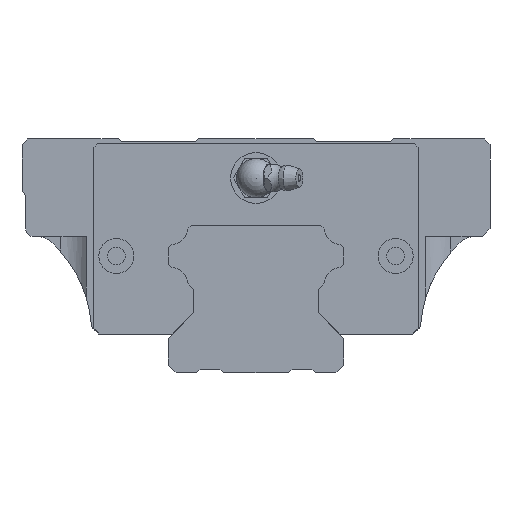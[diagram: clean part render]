
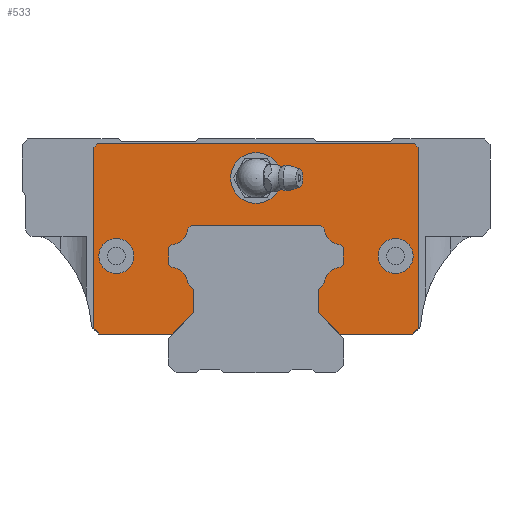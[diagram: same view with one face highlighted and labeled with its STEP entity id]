
A CAD part, front view. The second image highlights one B-rep face of the part: STEP entity #533.
In plain terms, the highlighted planar face has unit normal (0, -1, 0).
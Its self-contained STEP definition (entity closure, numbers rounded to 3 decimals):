
#201=FACE_BOUND('',#1050,.T.);
#202=FACE_BOUND('',#1051,.T.);
#203=FACE_BOUND('',#1052,.T.);
#341=CIRCLE('',#3637,4.35);
#343=CIRCLE('',#3643,4.35);
#345=CIRCLE('',#3649,4.35);
#347=CIRCLE('',#3655,4.35);
#355=CIRCLE('',#3702,6.5);
#356=CIRCLE('',#3703,4.5);
#357=CIRCLE('',#3704,4.5);
#533=ADVANCED_FACE('',(#201,#202,#203,#836),#674,.F.);
#674=PLANE('',#3705);
#836=FACE_OUTER_BOUND('',#1053,.T.);
#1050=EDGE_LOOP('',(#1899));
#1051=EDGE_LOOP('',(#1900));
#1052=EDGE_LOOP('',(#1901));
#1053=EDGE_LOOP('',(#1902,#1903,#1904,#1905,#1906,#1907,#1908,#1909,#1910,
#1911,#1912,#1913,#1914,#1915,#1916,#1917,#1918,#1919,#1920,#1921,#1922,
#1923,#1924,#1925,#1926,#1927,#1928,#1929));
#1899=ORIENTED_EDGE('',*,*,#2774,.F.);
#1900=ORIENTED_EDGE('',*,*,#2775,.F.);
#1901=ORIENTED_EDGE('',*,*,#2776,.F.);
#1902=ORIENTED_EDGE('',*,*,#2762,.F.);
#1903=ORIENTED_EDGE('',*,*,#2773,.T.);
#1904=ORIENTED_EDGE('',*,*,#2771,.T.);
#1905=ORIENTED_EDGE('',*,*,#2728,.T.);
#1906=ORIENTED_EDGE('',*,*,#2725,.F.);
#1907=ORIENTED_EDGE('',*,*,#2722,.F.);
#1908=ORIENTED_EDGE('',*,*,#2719,.T.);
#1909=ORIENTED_EDGE('',*,*,#2716,.T.);
#1910=ORIENTED_EDGE('',*,*,#2713,.T.);
#1911=ORIENTED_EDGE('',*,*,#2710,.F.);
#1912=ORIENTED_EDGE('',*,*,#2707,.F.);
#1913=ORIENTED_EDGE('',*,*,#2704,.T.);
#1914=ORIENTED_EDGE('',*,*,#2701,.F.);
#1915=ORIENTED_EDGE('',*,*,#2698,.T.);
#1916=ORIENTED_EDGE('',*,*,#2695,.T.);
#1917=ORIENTED_EDGE('',*,*,#2692,.T.);
#1918=ORIENTED_EDGE('',*,*,#2689,.T.);
#1919=ORIENTED_EDGE('',*,*,#2686,.T.);
#1920=ORIENTED_EDGE('',*,*,#2683,.F.);
#1921=ORIENTED_EDGE('',*,*,#2680,.T.);
#1922=ORIENTED_EDGE('',*,*,#2677,.F.);
#1923=ORIENTED_EDGE('',*,*,#2674,.T.);
#1924=ORIENTED_EDGE('',*,*,#2671,.T.);
#1925=ORIENTED_EDGE('',*,*,#2667,.F.);
#1926=ORIENTED_EDGE('',*,*,#2770,.T.);
#1927=ORIENTED_EDGE('',*,*,#2768,.F.);
#1928=ORIENTED_EDGE('',*,*,#2766,.F.);
#1929=ORIENTED_EDGE('',*,*,#2764,.F.);
#2260=VERTEX_POINT('',#5549);
#2261=VERTEX_POINT('',#5551);
#2264=VERTEX_POINT('',#5559);
#2266=VERTEX_POINT('',#5565);
#2268=VERTEX_POINT('',#5571);
#2270=VERTEX_POINT('',#5577);
#2272=VERTEX_POINT('',#5583);
#2274=VERTEX_POINT('',#5589);
#2276=VERTEX_POINT('',#5595);
#2278=VERTEX_POINT('',#5601);
#2280=VERTEX_POINT('',#5607);
#2282=VERTEX_POINT('',#5613);
#2284=VERTEX_POINT('',#5619);
#2286=VERTEX_POINT('',#5625);
#2288=VERTEX_POINT('',#5631);
#2290=VERTEX_POINT('',#5637);
#2292=VERTEX_POINT('',#5643);
#2294=VERTEX_POINT('',#5649);
#2296=VERTEX_POINT('',#5655);
#2298=VERTEX_POINT('',#5661);
#2300=VERTEX_POINT('',#5667);
#2302=VERTEX_POINT('',#5673);
#2313=VERTEX_POINT('',#5748);
#2314=VERTEX_POINT('',#5750);
#2315=VERTEX_POINT('',#5754);
#2316=VERTEX_POINT('',#5758);
#2317=VERTEX_POINT('',#5762);
#2318=VERTEX_POINT('',#5768);
#2319=VERTEX_POINT('',#5774);
#2320=VERTEX_POINT('',#5776);
#2321=VERTEX_POINT('',#5778);
#2667=EDGE_CURVE('',#2260,#2261,#3028,.T.);
#2671=EDGE_CURVE('',#2264,#2261,#3032,.T.);
#2674=EDGE_CURVE('',#2266,#2264,#3035,.T.);
#2677=EDGE_CURVE('',#2266,#2268,#3038,.T.);
#2680=EDGE_CURVE('',#2270,#2268,#341,.T.);
#2683=EDGE_CURVE('',#2270,#2272,#3042,.T.);
#2686=EDGE_CURVE('',#2274,#2272,#3045,.T.);
#2689=EDGE_CURVE('',#2276,#2274,#3048,.T.);
#2692=EDGE_CURVE('',#2278,#2276,#343,.T.);
#2695=EDGE_CURVE('',#2280,#2278,#3052,.T.);
#2698=EDGE_CURVE('',#2282,#2280,#3055,.T.);
#2701=EDGE_CURVE('',#2282,#2284,#3058,.T.);
#2704=EDGE_CURVE('',#2286,#2284,#345,.T.);
#2707=EDGE_CURVE('',#2286,#2288,#3062,.T.);
#2710=EDGE_CURVE('',#2288,#2290,#3065,.T.);
#2713=EDGE_CURVE('',#2292,#2290,#3068,.T.);
#2716=EDGE_CURVE('',#2294,#2292,#347,.T.);
#2719=EDGE_CURVE('',#2296,#2294,#3072,.T.);
#2722=EDGE_CURVE('',#2296,#2298,#3075,.T.);
#2725=EDGE_CURVE('',#2298,#2300,#3078,.T.);
#2728=EDGE_CURVE('',#2302,#2300,#3081,.T.);
#2762=EDGE_CURVE('',#2313,#2314,#3108,.T.);
#2764=EDGE_CURVE('',#2314,#2315,#3110,.T.);
#2766=EDGE_CURVE('',#2315,#2316,#3112,.T.);
#2768=EDGE_CURVE('',#2316,#2317,#3114,.T.);
#2770=EDGE_CURVE('',#2260,#2317,#3116,.T.);
#2771=EDGE_CURVE('',#2318,#2302,#3117,.T.);
#2773=EDGE_CURVE('',#2313,#2318,#3119,.T.);
#2774=EDGE_CURVE('',#2319,#2319,#355,.T.);
#2775=EDGE_CURVE('',#2320,#2320,#356,.T.);
#2776=EDGE_CURVE('',#2321,#2321,#357,.T.);
#3028=LINE('',#5550,#3354);
#3032=LINE('',#5558,#3358);
#3035=LINE('',#5564,#3361);
#3038=LINE('',#5570,#3364);
#3042=LINE('',#5582,#3368);
#3045=LINE('',#5588,#3371);
#3048=LINE('',#5594,#3374);
#3052=LINE('',#5606,#3378);
#3055=LINE('',#5612,#3381);
#3058=LINE('',#5618,#3384);
#3062=LINE('',#5630,#3388);
#3065=LINE('',#5636,#3391);
#3068=LINE('',#5642,#3394);
#3072=LINE('',#5654,#3398);
#3075=LINE('',#5660,#3401);
#3078=LINE('',#5666,#3404);
#3081=LINE('',#5672,#3407);
#3108=LINE('',#5749,#3434);
#3110=LINE('',#5753,#3436);
#3112=LINE('',#5757,#3438);
#3114=LINE('',#5761,#3440);
#3116=LINE('',#5765,#3442);
#3117=LINE('',#5767,#3443);
#3119=LINE('',#5771,#3445);
#3354=VECTOR('',#4320,1.);
#3358=VECTOR('',#4326,1.);
#3361=VECTOR('',#4331,1.);
#3364=VECTOR('',#4336,1.);
#3368=VECTOR('',#4348,1.);
#3371=VECTOR('',#4353,1.);
#3374=VECTOR('',#4358,1.);
#3378=VECTOR('',#4370,1.);
#3381=VECTOR('',#4375,1.);
#3384=VECTOR('',#4380,1.);
#3388=VECTOR('',#4392,1.);
#3391=VECTOR('',#4397,1.);
#3394=VECTOR('',#4402,1.);
#3398=VECTOR('',#4414,1.);
#3401=VECTOR('',#4419,1.);
#3404=VECTOR('',#4424,1.);
#3407=VECTOR('',#4429,1.);
#3434=VECTOR('',#4524,1.);
#3436=VECTOR('',#4528,1.);
#3438=VECTOR('',#4532,1.);
#3440=VECTOR('',#4536,1.);
#3442=VECTOR('',#4540,1.);
#3443=VECTOR('',#4543,1.);
#3445=VECTOR('',#4547,1.);
#3637=AXIS2_PLACEMENT_3D('',#5576,#4341,#4342);
#3643=AXIS2_PLACEMENT_3D('',#5600,#4363,#4364);
#3649=AXIS2_PLACEMENT_3D('',#5624,#4385,#4386);
#3655=AXIS2_PLACEMENT_3D('',#5648,#4407,#4408);
#3702=AXIS2_PLACEMENT_3D('',#5773,#4550,#4551);
#3703=AXIS2_PLACEMENT_3D('',#5775,#4552,#4553);
#3704=AXIS2_PLACEMENT_3D('',#5777,#4554,#4555);
#3705=AXIS2_PLACEMENT_3D('',#5779,#4556,#4557);
#4320=DIRECTION('',(-1.,0.,0.));
#4326=DIRECTION('',(0.707,0.,-0.707));
#4331=DIRECTION('',(0.,0.,-1.));
#4336=DIRECTION('',(0.707,0.,0.707));
#4341=DIRECTION('',(0.,-1.,0.));
#4342=DIRECTION('',(1.,0.,0.));
#4348=DIRECTION('',(0.707,0.,0.707));
#4353=DIRECTION('',(0.,0.,-1.));
#4358=DIRECTION('',(0.707,0.,-0.707));
#4363=DIRECTION('',(0.,-1.,0.));
#4364=DIRECTION('',(1.,0.,0.));
#4370=DIRECTION('',(0.707,0.,-0.707));
#4375=DIRECTION('',(1.,0.,0.));
#4380=DIRECTION('',(-0.707,0.,-0.707));
#4385=DIRECTION('',(0.,-1.,0.));
#4386=DIRECTION('',(1.,0.,0.));
#4392=DIRECTION('',(-0.707,0.,-0.707));
#4397=DIRECTION('',(0.,0.,-1.));
#4402=DIRECTION('',(-0.707,0.,0.707));
#4407=DIRECTION('',(0.,-1.,0.));
#4408=DIRECTION('',(1.,0.,0.));
#4414=DIRECTION('',(-0.707,0.,0.707));
#4419=DIRECTION('',(0.,0.,-1.));
#4424=DIRECTION('',(-0.707,0.,-0.707));
#4429=DIRECTION('',(1.,0.,0.));
#4524=DIRECTION('',(0.707,0.,0.707));
#4528=DIRECTION('',(1.,0.,0.));
#4532=DIRECTION('',(0.707,0.,-0.707));
#4536=DIRECTION('',(0.,0.,-1.));
#4540=DIRECTION('',(0.707,0.,0.707));
#4543=DIRECTION('',(0.707,0.,-0.707));
#4547=DIRECTION('',(0.,0.,-1.));
#4550=DIRECTION('',(0.,-1.,0.));
#4551=DIRECTION('',(0.,0.,-1.));
#4552=DIRECTION('',(0.,-1.,0.));
#4553=DIRECTION('',(0.,0.,-1.));
#4554=DIRECTION('',(0.,-1.,0.));
#4555=DIRECTION('',(0.,0.,-1.));
#4556=DIRECTION('',(0.,1.,0.));
#4557=DIRECTION('',(0.,0.,-1.));
#5549=CARTESIAN_POINT('',(40.146,-67.85,10.));
#5550=CARTESIAN_POINT('',(40.146,-67.85,10.));
#5551=CARTESIAN_POINT('',(21.359,-67.85,10.));
#5558=CARTESIAN_POINT('',(15.9,-67.85,15.459));
#5559=CARTESIAN_POINT('',(15.9,-67.85,15.459));
#5564=CARTESIAN_POINT('',(15.9,-67.85,21.441));
#5565=CARTESIAN_POINT('',(15.9,-67.85,21.441));
#5570=CARTESIAN_POINT('',(15.9,-67.85,21.441));
#5571=CARTESIAN_POINT('',(17.575,-67.85,23.116));
#5576=CARTESIAN_POINT('',(21.912,-67.85,22.788));
#5577=CARTESIAN_POINT('',(21.584,-67.85,27.125));
#5582=CARTESIAN_POINT('',(21.584,-67.85,27.125));
#5583=CARTESIAN_POINT('',(22.4,-67.85,27.941));
#5588=CARTESIAN_POINT('',(22.4,-67.85,32.059));
#5589=CARTESIAN_POINT('',(22.4,-67.85,32.059));
#5594=CARTESIAN_POINT('',(21.584,-67.85,32.875));
#5595=CARTESIAN_POINT('',(21.584,-67.85,32.875));
#5600=CARTESIAN_POINT('',(21.912,-67.85,37.212));
#5601=CARTESIAN_POINT('',(17.575,-67.85,36.884));
#5606=CARTESIAN_POINT('',(16.559,-67.85,37.9));
#5607=CARTESIAN_POINT('',(16.559,-67.85,37.9));
#5612=CARTESIAN_POINT('',(-16.559,-67.85,37.9));
#5613=CARTESIAN_POINT('',(-16.559,-67.85,37.9));
#5618=CARTESIAN_POINT('',(-16.559,-67.85,37.9));
#5619=CARTESIAN_POINT('',(-17.575,-67.85,36.884));
#5624=CARTESIAN_POINT('',(-21.912,-67.85,37.212));
#5625=CARTESIAN_POINT('',(-21.584,-67.85,32.875));
#5630=CARTESIAN_POINT('',(-21.584,-67.85,32.875));
#5631=CARTESIAN_POINT('',(-22.4,-67.85,32.059));
#5636=CARTESIAN_POINT('',(-22.4,-67.85,32.059));
#5637=CARTESIAN_POINT('',(-22.4,-67.85,27.941));
#5642=CARTESIAN_POINT('',(-21.584,-67.85,27.125));
#5643=CARTESIAN_POINT('',(-21.584,-67.85,27.125));
#5648=CARTESIAN_POINT('',(-21.912,-67.85,22.788));
#5649=CARTESIAN_POINT('',(-17.575,-67.85,23.116));
#5654=CARTESIAN_POINT('',(-15.9,-67.85,21.441));
#5655=CARTESIAN_POINT('',(-15.9,-67.85,21.441));
#5660=CARTESIAN_POINT('',(-15.9,-67.85,21.441));
#5661=CARTESIAN_POINT('',(-15.9,-67.85,15.459));
#5666=CARTESIAN_POINT('',(-15.9,-67.85,15.459));
#5667=CARTESIAN_POINT('',(-21.359,-67.85,10.));
#5672=CARTESIAN_POINT('',(-40.146,-67.85,10.));
#5673=CARTESIAN_POINT('',(-40.146,-67.85,10.));
#5748=CARTESIAN_POINT('',(-41.55,-67.85,57.896));
#5749=CARTESIAN_POINT('',(-41.55,-67.85,57.896));
#5750=CARTESIAN_POINT('',(-40.696,-67.85,58.75));
#5753=CARTESIAN_POINT('',(-40.696,-67.85,58.75));
#5754=CARTESIAN_POINT('',(40.696,-67.85,58.75));
#5757=CARTESIAN_POINT('',(40.696,-67.85,58.75));
#5758=CARTESIAN_POINT('',(41.55,-67.85,57.896));
#5761=CARTESIAN_POINT('',(41.55,-67.85,57.896));
#5762=CARTESIAN_POINT('',(41.55,-67.85,11.404));
#5765=CARTESIAN_POINT('',(40.146,-67.85,10.));
#5767=CARTESIAN_POINT('',(-41.55,-67.85,11.404));
#5768=CARTESIAN_POINT('',(-41.55,-67.85,11.404));
#5771=CARTESIAN_POINT('',(-41.55,-67.85,57.896));
#5773=CARTESIAN_POINT('',(0.,-67.85,50.));
#5774=CARTESIAN_POINT('',(0.,-67.85,43.5));
#5775=CARTESIAN_POINT('',(35.8,-67.85,30.));
#5776=CARTESIAN_POINT('',(35.8,-67.85,25.5));
#5777=CARTESIAN_POINT('',(-35.8,-67.85,30.));
#5778=CARTESIAN_POINT('',(-35.8,-67.85,25.5));
#5779=CARTESIAN_POINT('',(21.912,-67.85,22.788));
